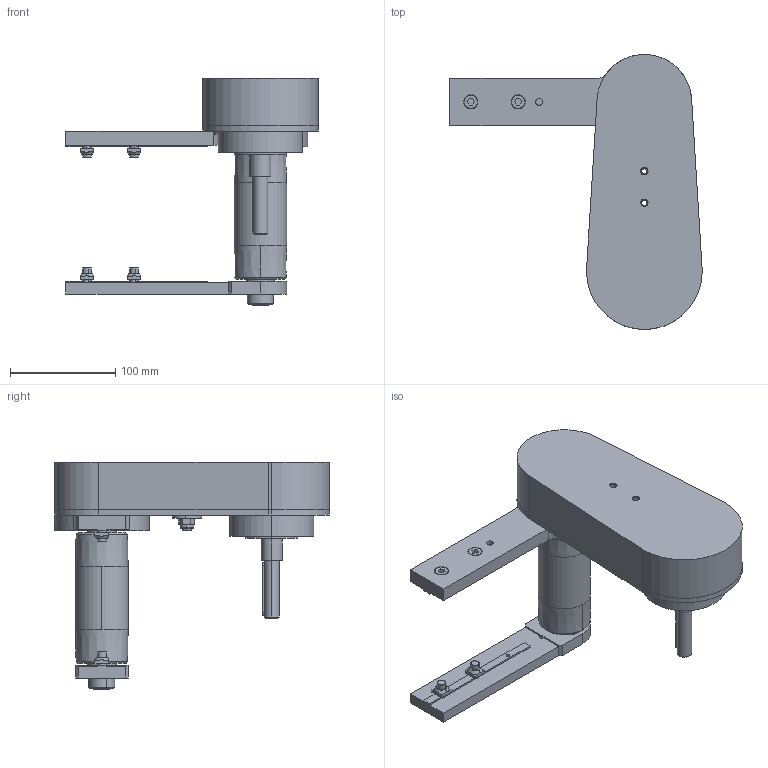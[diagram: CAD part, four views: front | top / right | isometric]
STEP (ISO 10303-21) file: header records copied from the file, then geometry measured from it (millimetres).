
FILE_DESCRIPTION (( 'STEP AP203' ), '1' );
FILE_NAME ('084.050.KTB.30.100.STEP', '2018-06-28T08:35:20', ( 'Localadmin' ), ( 'Microsoft' ), 'SwSTEP 2.0', 'SolidWorks 2016', '' );
FILE_SCHEMA (( 'CONFIG_CONTROL_DESIGN' ));
Length unit declared in the file: millimetre
Products named in the file (25): 084.821.003; CHIAVETTE_A 5x5x50 UNI 6604-69; 084.807.002_084.807.002; 084.050.KTB.30.100; 084.821.002; 084.809.004; 084.815.101_Default<A macchina>; 084.810.008; 084.813.006; 084.811.004; CUSCINETTI A SFERE_608-2RS; 084.802.021; 084.813.001; ISO 7040-M8-S_ISO 7040-M8-S; 084.809.001; 084.810.001; Washer ISO 7094 - 8_Washer ISO 7094 - 8; 084.809.003; 084.802.034_084.802.034; circlip for shafts normal_din_Circlip DIN 471 - 8 x 0.8; 084.301.000 VITI ALUSIC_084.301.003; 084.802.017_084.802.017; 084.810.006; 084.302.000 DADI ALUSIC 13x13_084.302.004; 084.807.001_084.807.001
Assembly tree (34 placements, depth 3):
  084.050.KTB.30.100
    084.815.101_Default<A macchina>
    084.811.004
    084.813.001
    084.810.001  x2
    084.802.034_084.802.034
    084.802.017_084.802.017
    084.807.001_084.807.001
    084.807.002_084.807.002
    084.809.004
    084.813.006
    084.802.021
    084.809.001
    084.809.003
    084.301.000 VITI ALUSIC_084.301.003  x4
    084.302.000 DADI ALUSIC 13x13_084.302.004  x4
    CHIAVETTE_A 5x5x50 UNI 6604-69
    084.821.002  x2
    084.810.006
      084.810.008
      CUSCINETTI A SFERE_608-2RS  x3
      ISO 7040-M8-S_ISO 7040-M8-S
      Washer ISO 7094 - 8_Washer ISO 7094 - 8
      circlip for shafts normal_din_Circlip DIN 471 - 8 x 0.8
    084.821.003
Bounding box: 240 x 261.5 x 216 mm (x, y, z)
Volume: 854978.7 mm3; surface area: 427697.3 mm2
Topology: 38 solids, 39 shells, 1518 faces, 3958 edges, 2574 vertices
Faces by surface type: plane 660, cylinder 618, cone 125, torus 106, sphere 9
Entity records: 39076 total; most frequent: CARTESIAN_POINT 7067, DIRECTION 6407, ORIENTED_EDGE 5898, EDGE_CURVE 2949, AXIS2_PLACEMENT_3D 2369, VERTEX_POINT 1917, LINE 1669, VECTOR 1669
